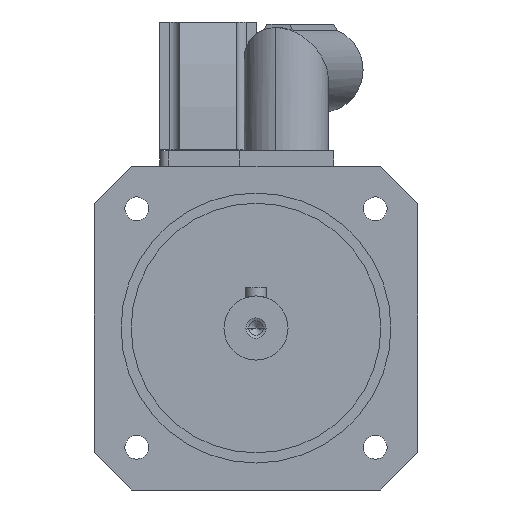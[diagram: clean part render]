
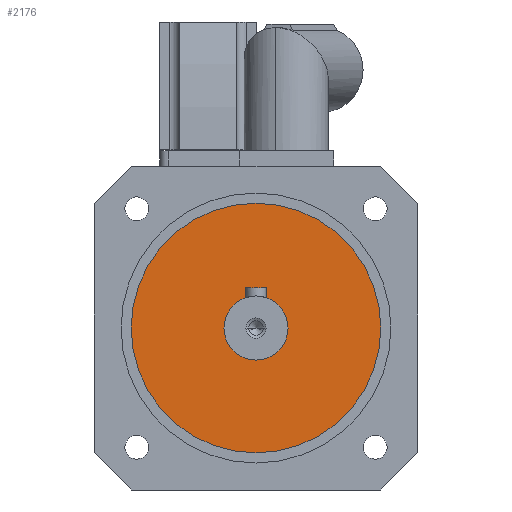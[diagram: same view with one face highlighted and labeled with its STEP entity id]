
A CAD part, left-side view. The second image highlights one B-rep face of the part: STEP entity #2176.
In plain terms, the highlighted planar face has unit normal (-1, 0, 0).
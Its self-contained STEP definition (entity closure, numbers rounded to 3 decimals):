
#2176=ADVANCED_FACE('',(#5362,#5363),#5364,.F.);
#5362=FACE_OUTER_BOUND('',#9366,.T.);
#5363=FACE_BOUND('',#9367,.T.);
#5364=PLANE('',#9368);
#9366=EDGE_LOOP('',(#19190,#19191));
#9367=EDGE_LOOP('',(#19192,#19193));
#9368=AXIS2_PLACEMENT_3D('',#19194,#19195,#19196);
#19190=ORIENTED_EDGE('',*,*,#21778,.F.);
#19191=ORIENTED_EDGE('',*,*,#21175,.F.);
#19192=ORIENTED_EDGE('',*,*,#21200,.T.);
#19193=ORIENTED_EDGE('',*,*,#21776,.T.);
#19194=CARTESIAN_POINT('',(0.0,0.0,0.0));
#19195=DIRECTION('',(1.0,0.0,0.0));
#19196=DIRECTION('',(0.0,0.0,-1.0));
#21175=EDGE_CURVE('',#22158,#22154,#22160,.T.);
#21200=EDGE_CURVE('',#22199,#22203,#22205,.T.);
#21776=EDGE_CURVE('',#22203,#22199,#22910,.T.);
#21778=EDGE_CURVE('',#22154,#22158,#22912,.T.);
#22154=VERTEX_POINT('',#23434);
#22158=VERTEX_POINT('',#23439);
#22160=CIRCLE('',#23442,37.0);
#22199=VERTEX_POINT('',#23489);
#22203=VERTEX_POINT('',#23494);
#22205=CIRCLE('',#23497,9.5);
#22910=CIRCLE('',#24397,9.5);
#22912=CIRCLE('',#24399,37.0);
#23434=CARTESIAN_POINT('',(0.0,0.0,37.0));
#23439=CARTESIAN_POINT('',(0.0,0.,-37.0));
#23442=AXIS2_PLACEMENT_3D('',#25175,#25176,#25177);
#23489=CARTESIAN_POINT('',(0.0,-9.5,0.0));
#23494=CARTESIAN_POINT('',(0.0,9.5,0.));
#23497=AXIS2_PLACEMENT_3D('',#25215,#25216,#25217);
#24397=AXIS2_PLACEMENT_3D('',#25568,#25569,#25570);
#24399=AXIS2_PLACEMENT_3D('',#25571,#25572,#25573);
#25175=CARTESIAN_POINT('',(0.0,0.0,0.0));
#25176=DIRECTION('',(1.0,0.0,-0.0));
#25177=DIRECTION('',(0.0,0.0,1.0));
#25215=CARTESIAN_POINT('',(0.0,0.0,0.0));
#25216=DIRECTION('',(1.0,0.0,0.0));
#25217=DIRECTION('',(0.0,-1.0,0.0));
#25568=CARTESIAN_POINT('',(0.0,0.0,0.0));
#25569=DIRECTION('',(1.0,0.0,0.0));
#25570=DIRECTION('',(0.0,-1.0,0.0));
#25571=CARTESIAN_POINT('',(0.0,0.0,0.0));
#25572=DIRECTION('',(1.0,0.0,-0.0));
#25573=DIRECTION('',(0.0,0.0,1.0));
